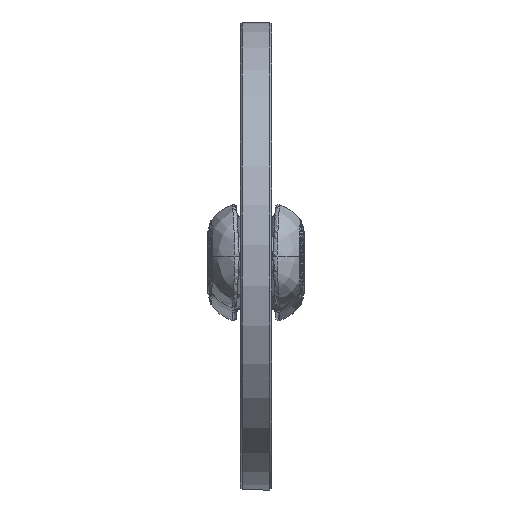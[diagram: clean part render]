
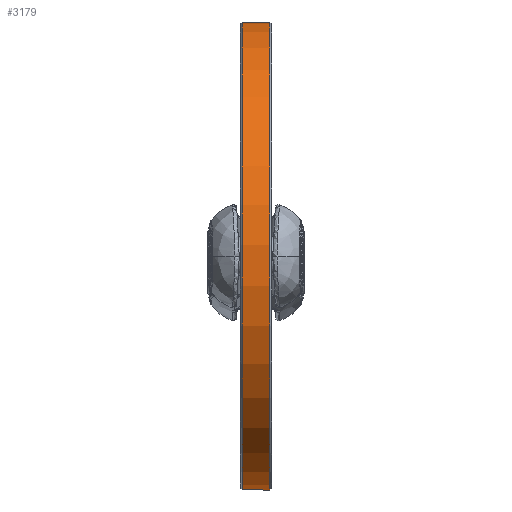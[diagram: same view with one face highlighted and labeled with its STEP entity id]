
A CAD part, top view. The second image highlights one B-rep face of the part: STEP entity #3179.
In plain terms, the highlighted cylindrical face has radius 412.5 mm (diameter 825 mm), a full revolution.
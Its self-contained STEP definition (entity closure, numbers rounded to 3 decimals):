
#668=CYLINDRICAL_SURFACE($,#3537,412.5);
#777=FACE_BOUND($,#1293,.T.);
#987=FACE_OUTER_BOUND($,#1292,.T.);
#1292=EDGE_LOOP($,(#2919));
#1293=EDGE_LOOP($,(#2920));
#1488=CIRCLE($,#3536,412.5);
#1489=CIRCLE($,#3538,412.5);
#1761=VERTEX_POINT($,#13909);
#1762=VERTEX_POINT($,#13912);
#2152=EDGE_CURVE($,#1761,#1761,#1488,.T.);
#2153=EDGE_CURVE($,#1762,#1762,#1489,.T.);
#2919=ORIENTED_EDGE($,*,*,#2153,.F.);
#2920=ORIENTED_EDGE($,*,*,#2152,.F.);
#3179=ADVANCED_FACE($,(#987,#777),#668,.T.);
#3536=AXIS2_PLACEMENT_3D($,#13910,#4293,#4294);
#3537=AXIS2_PLACEMENT_3D($,#13911,#4295,#4296);
#3538=AXIS2_PLACEMENT_3D($,#13913,#4297,#4298);
#4293=DIRECTION('center_axis',(0.,0.,-1.));
#4294=DIRECTION('ref_axis',(-1.,0.,0.));
#4295=DIRECTION('center_axis',(0.,0.,1.));
#4296=DIRECTION('ref_axis',(-1.,0.,0.));
#4297=DIRECTION('center_axis',(0.,0.,1.));
#4298=DIRECTION('ref_axis',(-1.,0.,0.));
#13909=CARTESIAN_POINT('',(412.5,0.,-24.5));
#13910=CARTESIAN_POINT('Origin',(0.,0.,-24.5));
#13911=CARTESIAN_POINT('Origin',(0.,0.,0.));
#13912=CARTESIAN_POINT('',(412.5,0.,24.5));
#13913=CARTESIAN_POINT('Origin',(0.,0.,24.5));
